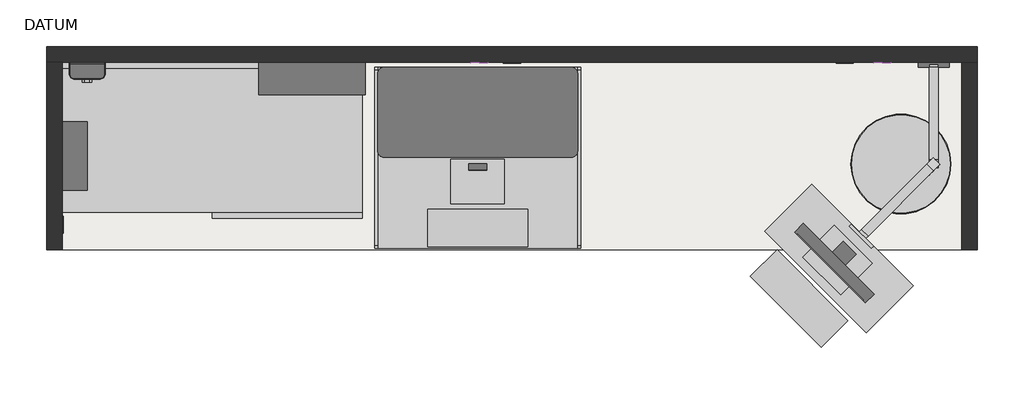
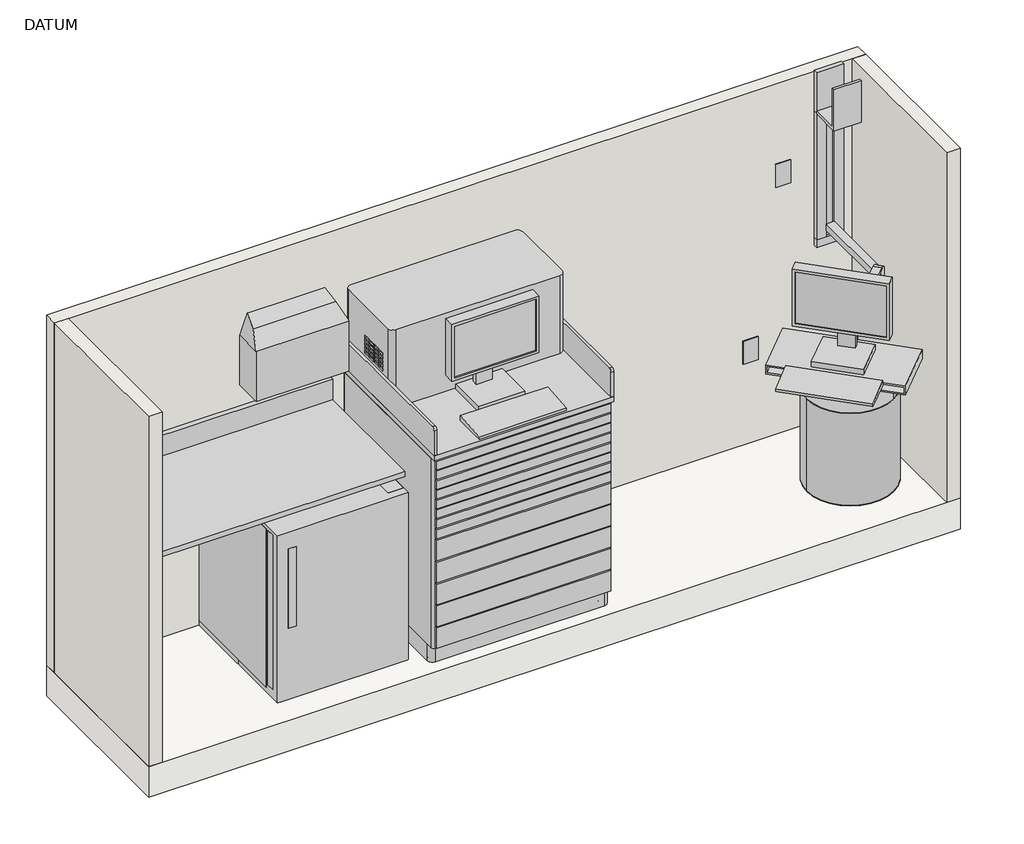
# One storey, incomplete: 14 proxies, 3 walls, 1 slab.
"""IFC4 building model written with IfcOpenShell, lengths in millimetres."""

from ifc_helpers import new_model, si_unit, frame, origin, origin_with_axes, place, context, project, spatial, polyline, outline, extrude, faceted_brep, transform, mapped, element, save
from components import specialty_equipment_54ba1bf3, specialty_equipment_78158b01, specialty_equipment_9af4d08e, specialty_equipment_7427381c, specialty_equipment_49429395, a5075_dispenser_soap_a5075_dispenser_soap_1799d04c, a5107_dispenser_glove_surgical_examination_wall_mntd_cc734ed0, proxy_06bba5ea, ct020_countertop_solid_surface_no_opening_1_ct020_countertop_e1092f7d, m1801_computer_with_flat_panel_monitor_m1801_computer_with_63adc1fb, m1803_workstation_computer_wall_mounted_m1803_workstation_ab120e1f, outlet_communications_telephone_data_e60629d5

model = new_model("IFC4")

# Units and contexts
model_context = context("Model", 3, world=origin())
ifc_project = project(units=[si_unit("LENGTHUNIT", "METRE", prefix="MILLI")], contexts=[model_context])

# Site, building, storey
site = spatial("IfcSite", under=ifc_project)
building = spatial("IfcBuilding", under=site)
storey = spatial("IfcBuildingStorey", under=building, Name="DATUM", Elevation=0.0)

# Proxies
placement = place(None, origin())
specialty_equipment_shape = specialty_equipment_54ba1bf3(model_context)
specialty_equipment_2_shape = specialty_equipment_78158b01(model_context)
specialty_equipment_3_shape = specialty_equipment_9af4d08e(model_context)
element("IfcBuildingElementProxy", 1, Name="M3150 - Distribution System, Medication, Automatic : M3150 - Distribution System, Medication, Automatic", ObjectType="M3150 - Distribution System, Medication, Automatic : M3150 - Distribution System, Medication, Automatic", at=placement, inside=storey, context=model_context, shape_type="MappedRepresentation", body=[
    mapped(specialty_equipment_shape, transform((9195.5570708, -260860.9141905, 0.0), x_axis=(1.0, 0.0, 0.0), y_axis=(0.0, 1.0, 0.0), z_axis=(0.0, 0.0, 1.0))),
    mapped(specialty_equipment_2_shape, transform((9195.5570708, -260860.9141905, 0.0), x_axis=(1.0, 0.0, 0.0), y_axis=(0.0, 1.0, 0.0), z_axis=(0.0, 0.0, 1.0))),
    mapped(specialty_equipment_3_shape, transform((9195.5570708, -260860.9141905, 0.0), x_axis=(1.0, 0.0, 0.0), y_axis=(0.0, 1.0, 0.0), z_axis=(0.0, 0.0, 1.0))),
])
specialty_equipment_4_shape = specialty_equipment_7427381c(model_context)
element("IfcBuildingElementProxy", 2, Name="R6200 - Refrigerator, U-C or F-S, 5 Cu Ft (1) : R6200 - Refrigerator, U-C or F-S, 5 Cu Ft (1)", ObjectType="R6200 - Refrigerator, U-C or F-S, 5 Cu Ft (1) : R6200 - Refrigerator, U-C or F-S, 5 Cu Ft (1)", at=placement, inside=storey, context=model_context, shape_type="MappedRepresentation", body=[
    mapped(specialty_equipment_4_shape, transform((8420.8570708, -260789.7416708, 0.0), x_axis=(1.0, 0.0, 0.0), y_axis=(0.0, 1.0, 0.0), z_axis=(0.0, 0.0, 1.0))),
])
specialty_equipment_5_shape = specialty_equipment_49429395(model_context)
element("IfcBuildingElementProxy", 3, Name="F2000 - Basket, Wastepaper : F2000 - Basket, Wastepaper", ObjectType="F2000 - Basket, Wastepaper : F2000 - Basket, Wastepaper", at=placement, inside=storey, context=model_context, shape_type="MappedRepresentation", body=[
    mapped(specialty_equipment_5_shape, transform((10916.4070708, -260886.3141905, 0.0), x_axis=(1.0, 0.0, 0.0), y_axis=(0.0, 1.0, 0.0), z_axis=(0.0, 0.0, 1.0))),
])
a5075_dispenser_soap_a5075_dispenser_soap_shape = a5075_dispenser_soap_a5075_dispenser_soap_1799d04c(model_context)
element("IfcBuildingElementProxy", 4, Name="A5075 - Dispenser, Soap : A5075 - Dispenser, Soap", ObjectType="A5075 - Dispenser, Soap : A5075 - Dispenser, Soap", at=placement, inside=storey, context=model_context, shape_type="MappedRepresentation", body=[
    mapped(a5075_dispenser_soap_a5075_dispenser_soap_shape, transform((7608.0570708, -260472.2416708, 1117.6), x_axis=(1.0, 0.0, 0.0), y_axis=(0.0, 1.0, 0.0), z_axis=(0.0, 0.0, 1.0))),
])
a5107_dispenser_glove_surgical_examination_wall_mntd_shape = a5107_dispenser_glove_surgical_examination_wall_mntd_cc734ed0(model_context)
element("IfcBuildingElementProxy", 5, Name="A5107 - Dispenser, Glove, Surgical-Examination, Wall Mntd : A5107 - Dispenser, Glove, Surgical-Examination, Wall Mntd 10\"x 4\"", ObjectType="A5107 - Dispenser, Glove, Surgical-Examination, Wall Mntd : A5107 - Dispenser, Glove, Surgical-Examination, Wall Mntd 10\"x 4\"", at=placement, inside=storey, context=model_context, shape_type="MappedRepresentation", body=[
    mapped(a5107_dispenser_glove_surgical_examination_wall_mntd_shape, transform((7506.4570708, -260853.2416708, 1066.8), x_axis=(0.0, 1.0, 0.0), y_axis=(-1.0, 0.0, 0.0), z_axis=(0.0, 0.0, 1.0))),
])
proxy_shape = proxy_06bba5ea(model_context)
element("IfcBuildingElementProxy", 6, Name="A5108 - Waste Disposal Unit, Sharps : A5108 - Waste Disposal Unit, Sharps 17\"x 13\"", ObjectType="A5108 - Waste Disposal Unit, Sharps : A5108 - Waste Disposal Unit, Sharps 17\"x 13\"", at=placement, inside=storey, context=model_context, shape_type="MappedRepresentation", body=[
    mapped(proxy_shape, transform((8522.4570708, -260605.5916708, 1117.6), x_axis=(1.0000000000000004, 0.0, 0.0), y_axis=(0.0, 1.0000000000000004, 0.0), z_axis=(0.0, 0.0, 1.0))),
])
ct020_countertop_solid_surface_no_opening_1_ct020_countertop_shape = ct020_countertop_solid_surface_no_opening_1_ct020_countertop_e1092f7d(model_context)
element("IfcBuildingElementProxy", 7, Name="CT020 - Countertop, Solid Surface - No Opening (1) : CT020 - Countertop, Solid Surface - No Opening (1)", ObjectType="CT020 - Countertop, Solid Surface - No Opening (1) : CT020 - Countertop, Solid Surface - No Opening (1)", at=placement, inside=storey, context=model_context, shape_type="MappedRepresentation", body=[
    mapped(ct020_countertop_solid_surface_no_opening_1_ct020_countertop_shape, transform((8116.0570708, -260777.0416708, 889.0), x_axis=(1.0, 0.0, 0.0), y_axis=(0.0, 1.0, 0.0), z_axis=(0.0, 0.0, 1.0))),
])
m1801_computer_with_flat_panel_monitor_m1801_computer_with_shape = m1801_computer_with_flat_panel_monitor_m1801_computer_with_63adc1fb(model_context)
element("IfcBuildingElementProxy", 8, Name="M1801 - Computer with Flat Panel Monitor : M1801 - Computer with Flat Panel Monitor", ObjectType="M1801 - Computer with Flat Panel Monitor : M1801 - Computer with Flat Panel Monitor", at=placement, inside=storey, context=model_context, shape_type="MappedRepresentation", body=[
    mapped(m1801_computer_with_flat_panel_monitor_m1801_computer_with_shape, transform((10569.7823759, -261365.6213605, 914.4), x_axis=(0.7071067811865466, -0.7071067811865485, 0.0), y_axis=(0.7071067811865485, 0.7071067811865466, 0.0), z_axis=(0.0, 0.0, 1.0))),
])
m1803_workstation_computer_wall_mounted_m1803_workstation_shape = m1803_workstation_computer_wall_mounted_m1803_workstation_ab120e1f(model_context)
element("IfcBuildingElementProxy", 9, Name="M1803 - Workstation, Computer, Wall Mounted : M1803 - Workstation, Computer, Wall Mounted", ObjectType="M1803 - Workstation, Computer, Wall Mounted : M1803 - Workstation, Computer, Wall Mounted", at=placement, inside=storey, context=model_context, shape_type="MappedRepresentation", body=[
    mapped(m1803_workstation_computer_wall_mounted_m1803_workstation_shape, transform((11049.7770655, -260472.2416708, 869.95), x_axis=(1.0, 0.0, 0.0), y_axis=(0.0, 1.0, 0.0), z_axis=(0.0, 0.0, 1.0))),
])
outlet_communications_telephone_data_shape = outlet_communications_telephone_data_e60629d5(model_context)
element("IfcBuildingElementProxy", 10, Name="Outlet, Communications : Telephone/Data", ObjectType="Outlet, Communications : Telephone/Data", at=placement, inside=storey, context=model_context, shape_type="MappedRepresentation", body=[
    mapped(outlet_communications_telephone_data_shape, transform((9201.9070708, -260440.4916708, 1219.2), x_axis=(-1.0, 0.0, 0.0), y_axis=(0.0, -1.0, 0.0), z_axis=(0.0, 0.0, 1.0))),
])
element("IfcBuildingElementProxy", 11, Name="Outlet, Communications : Telephone/Data", ObjectType="Outlet, Communications : Telephone/Data", at=placement, inside=storey, context=model_context, shape_type="MappedRepresentation", body=[
    mapped(outlet_communications_telephone_data_shape, transform((10840.2070708, -260440.4916708, 1219.2), x_axis=(-1.0, 0.0, 0.0), y_axis=(0.0, -1.0, 0.0), z_axis=(0.0, 0.0, 1.0))),
])
element("IfcBuildingElementProxy", 12, Name="Outlet, Duplex, Wall : Duplex", ObjectType="Outlet, Duplex, Wall : Duplex", at=placement, inside=storey, context=model_context, shape_type="MappedRepresentation", body=[
    mapped(outlet_communications_telephone_data_shape, transform((10687.8070708, -260440.4916708, 400.05), x_axis=(-1.0, 0.0, 0.0), y_axis=(0.0, -1.0, 0.0), z_axis=(0.0, 0.0, 1.0))),
])
element("IfcBuildingElementProxy", 13, Name="Outlet, Duplex, Wall : Duplex", ObjectType="Outlet, Duplex, Wall : Duplex", at=placement, inside=storey, context=model_context, shape_type="MappedRepresentation", body=[
    mapped(outlet_communications_telephone_data_shape, transform((9335.2570708, -260440.4916708, 400.05), x_axis=(-1.0, 0.0, 0.0), y_axis=(0.0, -1.0, 0.0), z_axis=(0.0, 0.0, 1.0))),
])
element("IfcBuildingElementProxy", 14, Name="Outlet, Duplex, Wall : Duplex", ObjectType="Outlet, Duplex, Wall : Duplex", at=placement, inside=storey, context=model_context, shape_type="MappedRepresentation", body=[
    mapped(outlet_communications_telephone_data_shape, transform((7474.7070708, -261132.6416708, 1060.45), x_axis=(0.0, -1.0, 0.0), y_axis=(1.0, 0.0, 0.0), z_axis=(0.0, 0.0, 1.0))),
])

# Slab
element("IfcSlab", 15, ObjectType="Generic - 6\"", at=placement, inside=storey, context=model_context, shape_type="SweptSolid", body=[
    extrude(outline(polyline([(7442.9570708, -261234.2416708), (7442.9570708, -260408.7416708), (11227.5570708, -260408.7416708), (11227.5570708, -261234.2416708), (7442.9570708, -261234.2416708)])), frame((0.0, 0.0, -152.4), z_axis=(0.0, 0.0, 1.0), x_axis=(1.0, 0.0, 0.0)), (0.0, 0.0, 1.0), 152.4),
])

# Walls
element("IfcWall", 16, ObjectType="Systems Wall", at=placement, inside=storey, context=model_context, shape_type="Brep", body=[
    faceted_brep([(7442.9570708, -260472.2416708, 0.0), (7506.4570708, -260472.2416708, 0.0), (11164.0570708, -260472.2416708, 0.0), (11227.5570708, -260472.2416708, 0.0), (11227.5570708, -260472.2416708, 1727.2), (11164.0570708, -260472.2416708, 1727.2), (7506.4570708, -260472.2416708, 1727.2), (7442.9570708, -260472.2416708, 1727.2), (7442.9570708, -260408.7416708, 0.0), (7442.9570708, -260408.7416708, 1727.2), (11227.5570708, -260408.7416708, 1727.2), (11227.5570708, -260408.7416708, 0.0)], [[[0, 1, 2, 3, 4, 5, 6, 7]], [[8, 9, 10, 11]], [[3, 2, 1, 0, 8, 11]], [[7, 6, 5, 4, 10, 9]], [[4, 3, 11, 10]], [[0, 7, 9, 8]]]),
])
element("IfcWall", 17, ObjectType="Systems Wall", at=placement, inside=storey, context=model_context, shape_type="SweptSolid", body=[
    extrude(outline(polyline([(11164.0570708, -261234.2416708), (11164.0570708, -260472.2416708), (11227.5570708, -260472.2416708), (11227.5570708, -261234.2416708), (11164.0570708, -261234.2416708)])), origin_with_axes(), (0.0, 0.0, 1.0), 1727.2),
])
element("IfcWall", 18, ObjectType="Systems Wall", at=placement, inside=storey, context=model_context, shape_type="SweptSolid", body=[
    extrude(outline(polyline([(7442.9570708, -261234.2416708), (7442.9570708, -260472.2416708), (7506.4570708, -260472.2416708), (7506.4570708, -261234.2416708), (7442.9570708, -261234.2416708)])), origin_with_axes(), (0.0, 0.0, 1.0), 1727.2),
])

save(model, "model.ifc")
